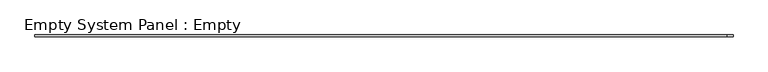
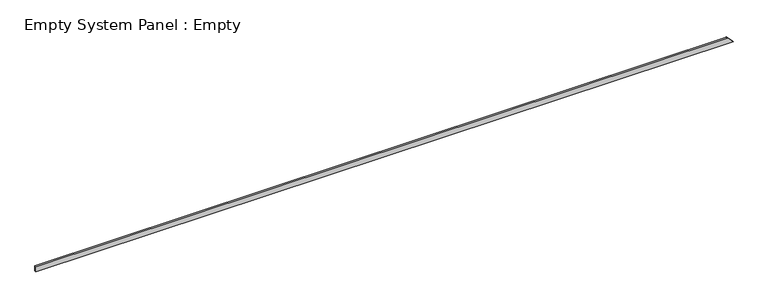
"""IFC4 building model written with IfcOpenShell, lengths in millimetres: plate geometry, Empty System Panel : Empty."""

import ifcopenshell
import ifcopenshell.guid

model = None  # the IFC model being written
_history = None  # IfcOwnerHistory: only IFC2X3 demands one
_inside = {}  # id of a spatial element -> (the spatial element, [elements in it])
_under = {}  # id of a project, library or spatial element -> (it, [spatial elements below it])
_declared = {}  # id of a project -> (the project, [libraries it declares])
_typed = {}  # id of a type object -> (the type object, [elements of that type])
_made_of = {}  # id of a material, layer set ... -> (it, [elements and type objects made of it])


def new_model(schema):
    """Start an empty IFC model of exactly this schema.

    Asked for "IFC4X3", IfcOpenShell would pick the latest addendum, in which some entities
    have other attributes; the version numbers below select the first issue.
    IFC2X3 requires an IfcOwnerHistory on every rooted entity: one is made here for all.
    """
    global model, _history
    if schema == "IFC4X3":
        model = ifcopenshell.file(schema_version=(4, 3, 0, 0))
    else:
        model = ifcopenshell.file(schema=schema)
    _inside.clear()
    _under.clear()
    _declared.clear()
    _typed.clear()
    _made_of.clear()
    _history = None
    if model.schema == "IFC2X3":
        org = make("IfcOrganization", Name="unknown")
        user = make(
            "IfcPersonAndOrganization",
            ThePerson=make("IfcPerson", FamilyName="unknown"),
            TheOrganization=org,
        )
        app = make(
            "IfcApplication",
            ApplicationDeveloper=org,
            Version="unknown",
            ApplicationFullName="unknown",
            ApplicationIdentifier="unknown",
        )
        _history = make(
            "IfcOwnerHistory",
            OwningUser=user,
            OwningApplication=app,
            ChangeAction="ADDED",
            CreationDate=0,
        )
    return model


def make(cls, **values):
    """One entity of the class cls with the attributes given. An attribute that is None is left unset."""
    return model.create_entity(
        cls, **{name: value for name, value in values.items() if value is not None}
    )


def rooted(cls, **values):
    """An entity with a GlobalId (a new one), such as an element, a storey or a relation."""
    return make(cls, GlobalId=ifcopenshell.guid.new(), OwnerHistory=_history, **values)


def si_unit(unit_type, name, prefix=None):
    """IfcSIUnit, for example si_unit("LENGTHUNIT", "METRE", prefix="MILLI")."""
    return make("IfcSIUnit", UnitType=unit_type, Prefix=prefix, Name=name)


def assignment(units):
    """IfcUnitAssignment: the units of a project."""
    return None if units is None else make("IfcUnitAssignment", Units=units)


def point(xyz):
    """IfcCartesianPoint."""
    return None if xyz is None else make("IfcCartesianPoint", Coordinates=xyz)


def direction(xyz):
    """IfcDirection."""
    return None if xyz is None else make("IfcDirection", DirectionRatios=xyz)


def frame(location, z_axis=None, x_axis=None):
    """IfcAxis2Placement3D, a coordinate frame: its origin and axes. An axis left out is left unset."""
    return make(
        "IfcAxis2Placement3D",
        Location=point(location),
        Axis=direction(z_axis),
        RefDirection=direction(x_axis),
    )


def origin():
    """The frame at (0, 0, 0) with its axes left unset."""
    return frame((0.0, 0.0, 0.0))


def place(relative_to, where):
    """IfcLocalPlacement: puts the frame where relative to a parent placement (None: the world)."""
    return make(
        "IfcLocalPlacement", PlacementRelTo=relative_to, RelativePlacement=where
    )


def context(
    kind, dimensions, precision=None, world=None, true_north=None, identifier=None
):
    """IfcGeometricRepresentationContext, for example the 3D "Model" context."""
    return make(
        "IfcGeometricRepresentationContext",
        ContextIdentifier=identifier,
        ContextType=kind,
        CoordinateSpaceDimension=dimensions,
        Precision=precision,
        WorldCoordinateSystem=world,
        TrueNorth=true_north,
    )


def project(units=None, contexts=None):
    """IfcProject with its units and contexts."""
    return rooted(
        "IfcProject",
        Name="project",
        RepresentationContexts=contexts,
        UnitsInContext=assignment(units),
    )


def spatial(cls, under=None, at=None, **own):
    """A site, building, storey or space (cls), placed at a placement, below another one or the project."""
    s = rooted(cls, ObjectPlacement=at, **own)
    if under is not None:
        _under.setdefault(under.id(), (under, []))[1].append(s)
    return s


def polyline(points):
    """IfcPolyline through the points."""
    return make("IfcPolyline", Points=[point(p) for p in points])


def outline(outer, holes=None, kind="AREA"):
    """IfcArbitraryClosedProfileDef: a profile drawn as a closed curve; with holes, ...WithVoids."""
    if holes is None:
        return make("IfcArbitraryClosedProfileDef", ProfileType=kind, OuterCurve=outer)
    return make(
        "IfcArbitraryProfileDefWithVoids",
        ProfileType=kind,
        OuterCurve=outer,
        InnerCurves=holes,
    )


def extrude(swept, where, along, depth):
    """IfcExtrudedAreaSolid: the profile swept, set in the frame where, extruded along a direction by depth."""
    return make(
        "IfcExtrudedAreaSolid",
        SweptArea=swept,
        Position=where,
        ExtrudedDirection=direction(along),
        Depth=depth,
    )


def shape(context_of_items, identifier, shape_type, items):
    """IfcShapeRepresentation: the items that make up one representation, for example the "Body"."""
    return make(
        "IfcShapeRepresentation",
        ContextOfItems=context_of_items,
        RepresentationIdentifier=identifier,
        RepresentationType=shape_type,
        Items=items,
    )


def source(mapping_origin, context_of_items, identifier, shape_type, items):
    """IfcRepresentationMap: a shape defined once, which mapped items show again and again."""
    return make(
        "IfcRepresentationMap",
        MappingOrigin=mapping_origin,
        MappedRepresentation=shape(context_of_items, identifier, shape_type, items),
    )


def transform(
    local_origin,
    x_axis=None,
    y_axis=None,
    z_axis=None,
    scale=None,
    scale2=None,
    scale3=None,
    uniform=True,
):
    """IfcCartesianTransformationOperator3D, or its non-uniform kind. x_axis, y_axis, z_axis: its Axis1, 2, 3."""
    if uniform:
        return make(
            "IfcCartesianTransformationOperator3D",
            Axis1=direction(x_axis),
            Axis2=direction(y_axis),
            LocalOrigin=point(local_origin),
            Scale=scale,
            Axis3=direction(z_axis),
        )
    return make(
        "IfcCartesianTransformationOperator3DnonUniform",
        Axis1=direction(x_axis),
        Axis2=direction(y_axis),
        LocalOrigin=point(local_origin),
        Scale=scale,
        Axis3=direction(z_axis),
        Scale2=scale2,
        Scale3=scale3,
    )


def mapped(mapping_source, mapping_target):
    """IfcMappedItem: shows the shape of a source again, moved by a transform."""
    return make(
        "IfcMappedItem", MappingSource=mapping_source, MappingTarget=mapping_target
    )


def made_of(thing, what):
    """Note that an element or type object is made of a material, layer set ...; save() writes the relation."""
    if what is not None:
        _made_of.setdefault(what.id(), (what, []))[1].append(thing)
    return thing


def element(
    cls,
    number,
    at=None,
    inside=None,
    cuts=None,
    type_object=None,
    material=None,
    context=None,
    identifier="Body",
    shape_type=None,
    held_by="IfcProductDefinitionShape",
    body=None,
    shapes=None,
    **own,
):
    """One element of the class cls, such as IfcWall. Its Tag is "e" and its number.

    at: its placement. inside: the storey or other place that contains it. cuts: it is an
    opening in that element (IfcRelVoidsElement). A single representation is given by context,
    identifier, shape_type and body (its items); several are given by shapes. held_by: the class
    of the entity that holds the representations. save() writes the other relations.
    """
    e = rooted(cls, Tag="e%d" % number, ObjectPlacement=at, **own)
    if body is not None:
        shapes = [shape(context, identifier, shape_type, body)]
    if shapes is not None:
        e.Representation = make(held_by, Representations=shapes)
    if inside is not None:
        _inside.setdefault(inside.id(), (inside, []))[1].append(e)
    if cuts is not None:
        rooted(
            "IfcRelVoidsElement", RelatingBuildingElement=cuts, RelatedOpeningElement=e
        )
    if type_object is not None:
        _typed.setdefault(type_object.id(), (type_object, []))[1].append(e)
    return made_of(e, material)


def aggregate(whole, parts):
    """IfcRelAggregates: a whole, such as a stair, and the parts it consists of."""
    return rooted("IfcRelAggregates", RelatingObject=whole, RelatedObjects=parts)


def save(model, path):
    """Write the relations noted so far, then the file.

    IfcRelAggregates (storeys below a building ...), IfcRelContainedInSpatialStructure (elements
    in a storey), IfcRelDefinesByType, IfcRelAssociatesMaterial and IfcRelDeclares: one each for
    every whole, place, type object, material and project.
    """
    for whole, parts in _under.values():
        aggregate(whole, parts)
    for where, things in _inside.values():
        rooted(
            "IfcRelContainedInSpatialStructure",
            RelatedElements=things,
            RelatingStructure=where,
        )
    for kind, things in _typed.values():
        rooted("IfcRelDefinesByType", RelatedObjects=things, RelatingType=kind)
    for what, things in _made_of.values():
        rooted("IfcRelAssociatesMaterial", RelatedObjects=things, RelatingMaterial=what)
    for by, libraries in _declared.values():
        rooted("IfcRelDeclares", RelatingContext=by, RelatedDefinitions=libraries)
    model.write(path)


def empty_system_panel_empty_7b34dfa2(model_context):
    return source(origin(), model_context, "Body", "SweptSolid", [
        extrude(outline(polyline([(0.0, -19394.2633467), (0.0, 19394.2633467), (330.0, 19067.9143502), (310.0, 19067.9143502), (310.0, -19394.2633467), (0.0, -19394.2633467)])), frame((0.0, -50.0, 0.0), z_axis=(0.0, 1.0, 0.0), x_axis=(0.0, 0.0, 1.0)), (0.0, 0.0, 1.0), 100.0),
    ])


if __name__ == "__main__":
    model = new_model("IFC4")
    model_context = context("Model", 3, world=origin())
    ifc_project = project(units=[si_unit("LENGTHUNIT", "METRE", prefix="MILLI")], contexts=[model_context])
    site = spatial("IfcSite", under=ifc_project)
    building = spatial("IfcBuilding", under=site)
    placement = place(None, origin())
    empty_system_panel_empty_shape = empty_system_panel_empty_7b34dfa2(model_context)
    element("IfcPlate", 1, ObjectType="Empty System Panel : Empty", at=placement, inside=building, context=model_context, shape_type="MappedRepresentation", body=[
        mapped(empty_system_panel_empty_shape, transform((0.0, 0.0, 0.0), x_axis=(1.0, 0.0, 0.0), y_axis=(0.0, 1.0, 0.0), z_axis=(0.0, 0.0, 1.0))),
    ])
    save(model, "model.ifc")
